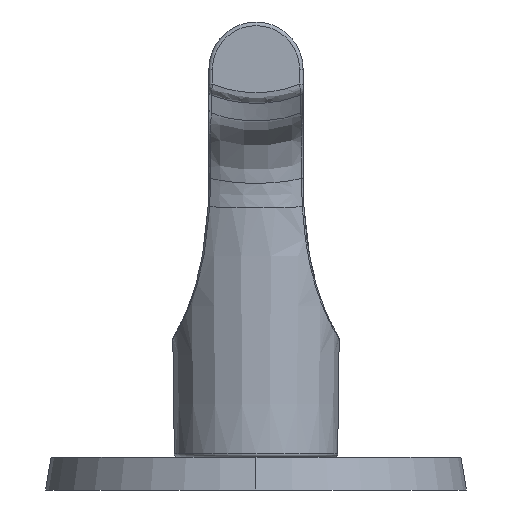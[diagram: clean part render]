
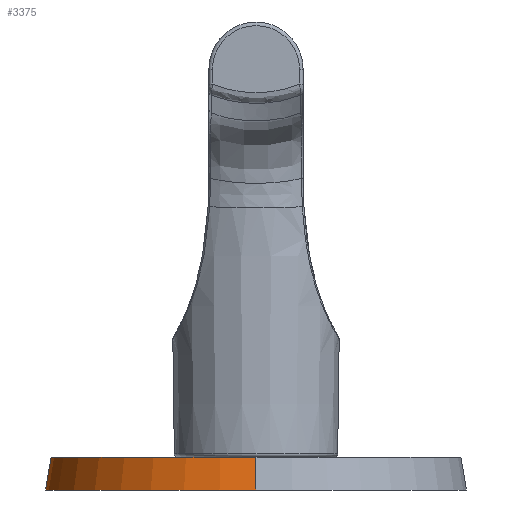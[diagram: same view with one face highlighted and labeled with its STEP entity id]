
A CAD part, left-side view. The second image highlights one B-rep face of the part: STEP entity #3375.
In plain terms, the highlighted conical face has half-angle 9.462 degrees and reference radius 28.625 mm.
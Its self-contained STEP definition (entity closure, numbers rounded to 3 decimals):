
#19=CARTESIAN_POINT('',(0.,0.,0.));
#20=DIRECTION('',(0.,0.,-1.));
#21=DIRECTION('',(-1.,0.,0.));
#22=AXIS2_PLACEMENT_3D('',#19,#20,#21);
#29=DIRECTION('',(-0.164,0.,-0.986));
#30=VECTOR('',#29,4.562);
#31=CARTESIAN_POINT('',(-28.25,0.,4.5));
#32=LINE('',#31,#30);
#33=DIRECTION('',(0.164,0.,-0.986));
#34=VECTOR('',#33,4.562);
#35=CARTESIAN_POINT('',(28.25,0.,4.5));
#36=LINE('',#35,#34);
#37=CARTESIAN_POINT('',(0.,0.,4.5));
#38=DIRECTION('',(0.,0.,-1.));
#39=DIRECTION('',(-1.,0.,0.));
#40=AXIS2_PLACEMENT_3D('',#37,#38,#39);
#3190=CARTESIAN_POINT('',(-28.25,0.,4.5));
#3191=CARTESIAN_POINT('',(-29.,0.,0.));
#3192=VERTEX_POINT('',#3190);
#3193=VERTEX_POINT('',#3191);
#3194=CARTESIAN_POINT('',(28.25,0.,4.5));
#3195=CARTESIAN_POINT('',(29.,0.,0.));
#3196=VERTEX_POINT('',#3194);
#3197=VERTEX_POINT('',#3195);
#3361=CARTESIAN_POINT('',(0.,0.,2.25));
#3362=DIRECTION('',(0.,0.,-1.));
#3363=DIRECTION('',(-1.,0.,0.));
#3364=AXIS2_PLACEMENT_3D('',#3361,#3362,#3363);
#3365=CONICAL_SURFACE('',#3364,28.625,9.462);
#3367=ORIENTED_EDGE('',*,*,#3366,.T.);
#3368=ORIENTED_EDGE('',*,*,#3347,.T.);
#3370=ORIENTED_EDGE('',*,*,#3369,.F.);
#3372=ORIENTED_EDGE('',*,*,#3371,.F.);
#3373=EDGE_LOOP('',(#3367,#3368,#3370,#3372));
#3374=FACE_OUTER_BOUND('',#3373,.F.);
#23=CIRCLE('',#22,29.);
#41=CIRCLE('',#40,28.25);
#3347=EDGE_CURVE('',#3193,#3197,#23,.T.);
#3366=EDGE_CURVE('',#3192,#3193,#32,.T.);
#3369=EDGE_CURVE('',#3196,#3197,#36,.T.);
#3371=EDGE_CURVE('',#3192,#3196,#41,.T.);
#3375=ADVANCED_FACE('',(#3374),#3365,.T.);
